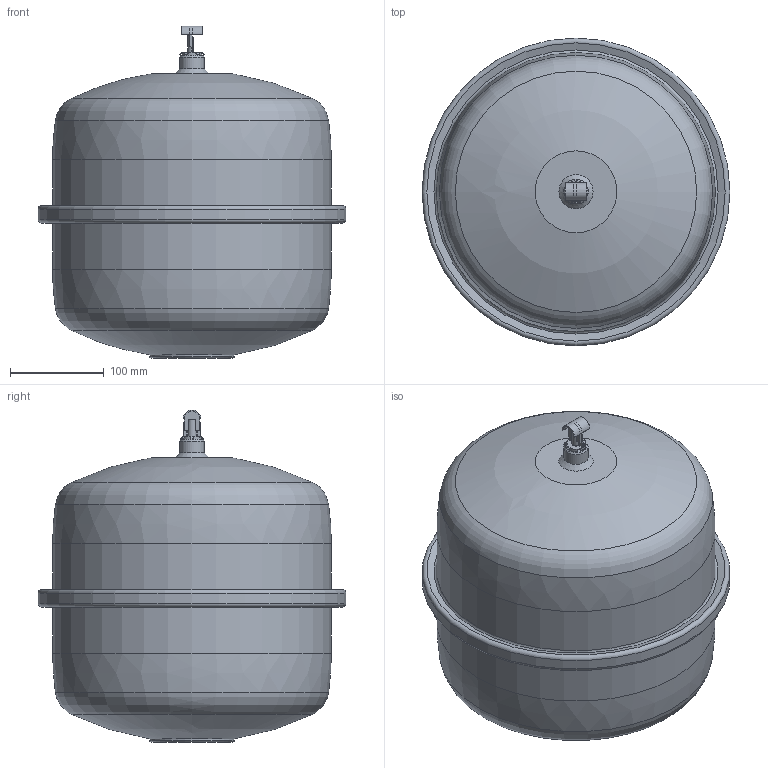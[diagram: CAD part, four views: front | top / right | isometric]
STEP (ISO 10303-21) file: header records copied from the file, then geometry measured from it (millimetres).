
FILE_DESCRIPTION(/* description */ (''),/* implementation_level */ '2;1');
FILE_NAME(/* name */ '\\dataserver\data\Flamco\3D-Modellen\Inventor\Airfix\Airfix A\24455_airfix_a_18l_10_5.stp',/* time_stamp */ '2025-05-06T11:19:52+02:00',/* author */ ('kasius'),/* organization */ (''),/* preprocessor_version */ 'ST-DEVELOPER v18.1',/* originating_system */ 'Autodesk Inventor 2021',/* authorisation */ '');
FILE_SCHEMA (('AUTOMOTIVE_DESIGN { 1 0 10303 214 3 1 1 }'));
Length unit declared in the file: millimetre
Products named in the file (1): 24458_airfix_a_18l_10_3
Bounding box: 328 x 328 x 353.77 mm (x, y, z)
Volume: 18477064.6 mm3; surface area: 401234.7 mm2
Topology: 2 solids, 2 shells, 109 faces, 306 edges, 205 vertices
Faces by surface type: plane 75, cylinder 15, cone 8, torus 7, bspline 2, sphere 2
Full cylindrical faces by diameter (mm): 7 x1, 8.8 x1, 18 x1, 20 x1, 20.8 x1, 26 x1, 90 x1, 297 x2, 328 x1
Entity records: 3759 total; most frequent: CARTESIAN_POINT 673, DIRECTION 628, ORIENTED_EDGE 612, EDGE_CURVE 306, AXIS2_PLACEMENT_3D 214, VERTEX_POINT 205, LINE 200, VECTOR 200
